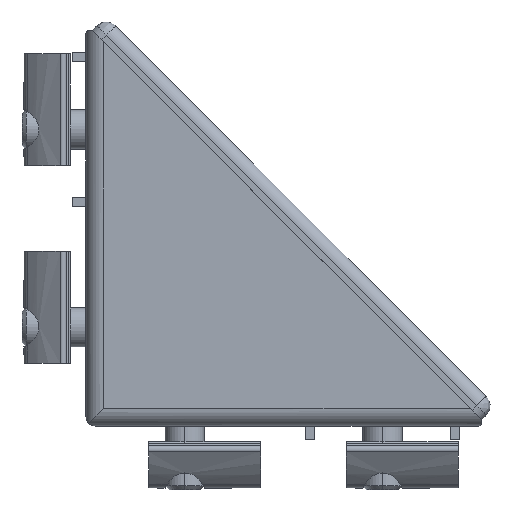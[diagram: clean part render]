
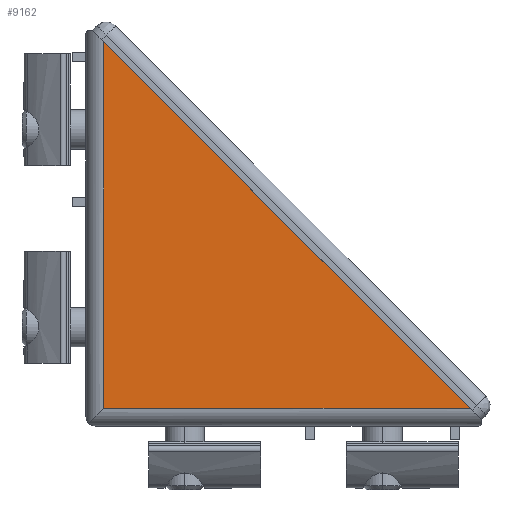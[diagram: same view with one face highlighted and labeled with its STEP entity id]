
A CAD part, left-side view. The second image highlights one B-rep face of the part: STEP entity #9162.
In plain terms, the highlighted planar face has unit normal (-1, 0, 0).
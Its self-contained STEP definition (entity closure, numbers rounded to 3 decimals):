
#126 = DIRECTION ( 'NONE',  ( 0., -0.707, -0.707 ) ) ;
#279 = CARTESIAN_POINT ( 'NONE',  ( -15., -2.7, 21.494 ) ) ;
#1653 = ORIENTED_EDGE ( 'NONE', *, *, #6081, .F. ) ;
#1745 = VECTOR ( 'NONE', #126, 1000. ) ;
#1900 = DIRECTION ( 'NONE',  ( 0., 0., -1. ) ) ;
#2004 = DIRECTION ( 'NONE',  ( 1., 0., 0. ) ) ;
#2533 = CARTESIAN_POINT ( 'NONE',  ( -15., -2.7, 58.3 ) ) ;
#2900 = VERTEX_POINT ( 'NONE', #6076 ) ;
#3193 = LINE ( 'NONE', #4073, #1745 ) ;
#3617 = FACE_OUTER_BOUND ( 'NONE', #10178, .T. ) ;
#3839 = VERTEX_POINT ( 'NONE', #2533 ) ;
#4073 = CARTESIAN_POINT ( 'NONE',  ( -15., -2.7, 58.3 ) ) ;
#4828 = ORIENTED_EDGE ( 'NONE', *, *, #7711, .F. ) ;
#4875 = DIRECTION ( 'NONE',  ( 0., 1., 0. ) ) ;
#4961 = LINE ( 'NONE', #279, #8137 ) ;
#5583 = AXIS2_PLACEMENT_3D ( 'NONE', #7498, #2004, #1900 ) ;
#5669 = CARTESIAN_POINT ( 'NONE',  ( -15., -21.494, 2.7 ) ) ;
#5819 = EDGE_CURVE ( 'NONE', #3839, #2900, #3193, .T. ) ;
#6076 = CARTESIAN_POINT ( 'NONE',  ( -15., -58.3, 2.7 ) ) ;
#6081 = EDGE_CURVE ( 'NONE', #9692, #3839, #4961, .T. ) ;
#7268 = ORIENTED_EDGE ( 'NONE', *, *, #5819, .F. ) ;
#7498 = CARTESIAN_POINT ( 'NONE',  ( -15., -21.494, 21.494 ) ) ;
#7711 = EDGE_CURVE ( 'NONE', #2900, #9692, #7979, .T. ) ;
#7979 = LINE ( 'NONE', #5669, #9851 ) ;
#8137 = VECTOR ( 'NONE', #8205, 1000. ) ;
#8205 = DIRECTION ( 'NONE',  ( 0., 0., 1. ) ) ;
#9045 = PLANE ( 'NONE',  #5583 ) ;
#9162 = ADVANCED_FACE ( 'NONE', ( #3617 ), #9045, .F. ) ;
#9598 = CARTESIAN_POINT ( 'NONE',  ( -15., -2.7, 2.7 ) ) ;
#9692 = VERTEX_POINT ( 'NONE', #9598 ) ;
#9851 = VECTOR ( 'NONE', #4875, 1000. ) ;
#10178 = EDGE_LOOP ( 'NONE', ( #7268, #1653, #4828 ) ) ;
